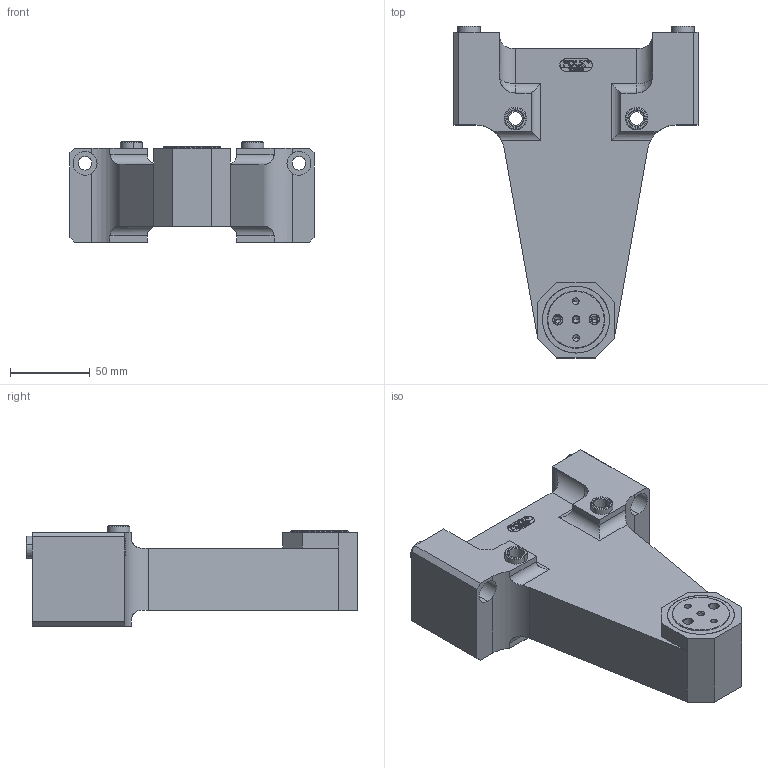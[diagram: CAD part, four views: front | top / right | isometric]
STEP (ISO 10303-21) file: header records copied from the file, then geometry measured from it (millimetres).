
FILE_DESCRIPTION (( 'STEP AP203' ), '1' );
FILE_NAME ('GS-32-F.STEP', '2026-05-08T08:22:51', ( 'USER-' ), ( 'Microsoft' ), 'SwSTEP 2.0', 'SolidWorks 2018', '' );
FILE_SCHEMA (( 'CONFIG_CONTROL_DESIGN' ));
Length unit declared in the file: millimetre
Products named in the file (7): GS-32-F; ﾏ擎ﾗ14｡ﾁ10｡ﾁ8; skf_bearing_hk_3520_2; GS32-F-03 唅蛌粣嘐隅遠; 20x8-R4; GS32-F-02 唅蛌粣; GS32-01-F 褲极
Assembly tree (9 placements, depth 2):
  GS-32-F
    GS32-01-F 褲极
    skf_bearing_hk_3520_2
    GS32-F-02 唅蛌粣
    GS32-F-03 唅蛌粣嘐隅遠
    20x8-R4
    ﾏ擎ﾗ14｡ﾁ10｡ﾁ8  x4
Bounding box: 153 x 208 x 63 mm (x, y, z)
Volume: 756265.4 mm3; surface area: 101620.1 mm2
Topology: 10 solids, 10 shells, 696 faces, 1825 edges, 1177 vertices
Faces by surface type: plane 310, cylinder 161, bspline 159, cone 64, torus 2
Entity records: 26490 total; most frequent: CARTESIAN_POINT 10323, ORIENTED_EDGE 3446, DIRECTION 2709, EDGE_CURVE 1723, VERTEX_POINT 1129, LINE 1079, VECTOR 1079, AXIS2_PLACEMENT_3D 815
